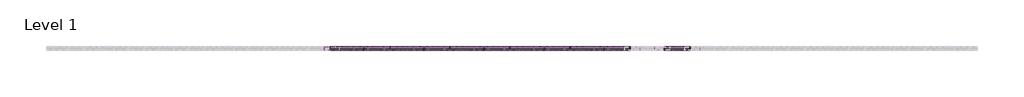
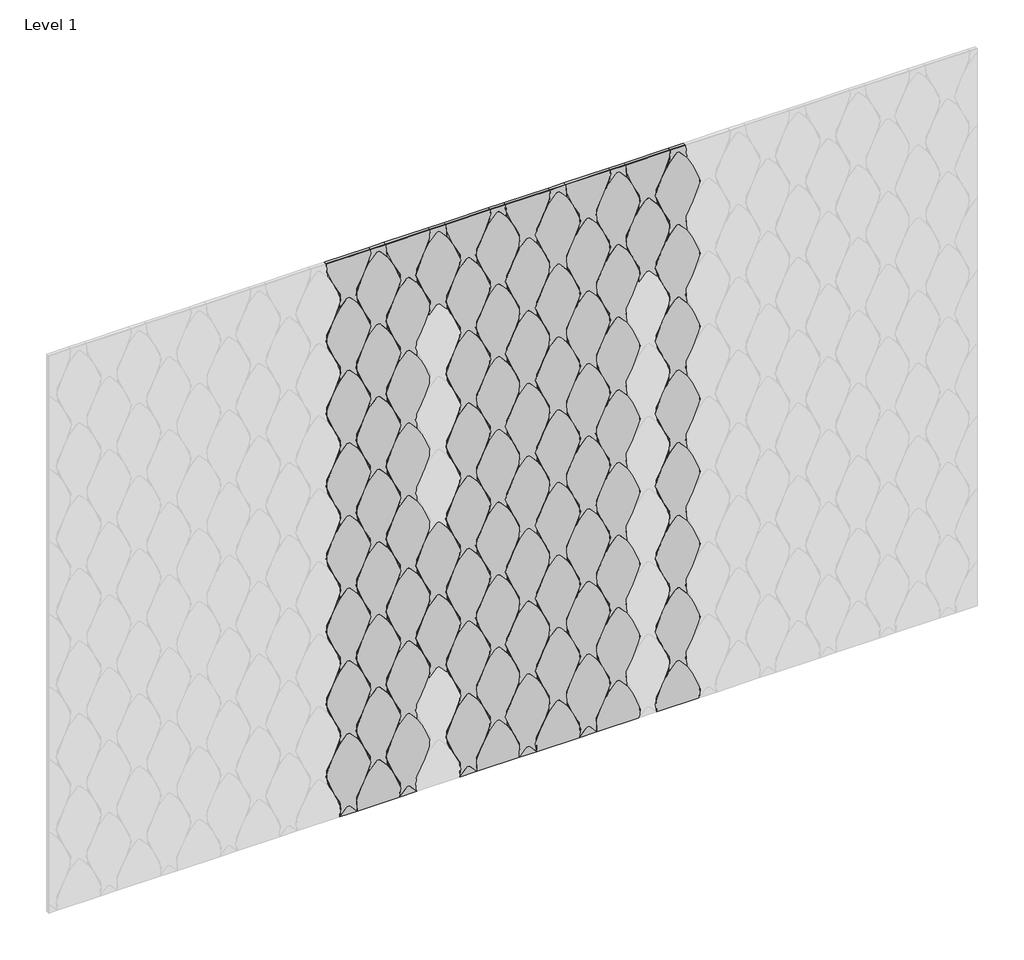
# One storey, part 2 of 3: 96 proxies.
"""IFC4 building model written with IfcOpenShell, lengths in millimetres."""

from ifc_helpers import new_model, si_unit, origin, place, context, project, spatial, transform, mapped, element, save
from components import specialty_equipment_90dfa3fd, specialty_equipment_1d57ec5c, specialty_equipment_d9d0cc40, specialty_equipment_58f33b70, specialty_equipment_77f5260d, specialty_equipment_34b07f8f, specialty_equipment_1d68d449, specialty_equipment_8d9a8f15, specialty_equipment_3b3f1b17, specialty_equipment_d7a9fa1d, specialty_equipment_a03a52e0, specialty_equipment_da839ed6

model = new_model("IFC4")

# Units and contexts
model_context = context("Model", 3, world=origin())
ifc_project = project(units=[si_unit("LENGTHUNIT", "METRE", prefix="MILLI")], contexts=[model_context])

# Site, building, storey
site = spatial("IfcSite", under=ifc_project)
building = spatial("IfcBuilding", under=site)
storey = spatial("IfcBuildingStorey", under=building, Name="Level 1", Elevation=0.0)

# Proxies
placement = place(None, origin())
specialty_equipment_shape = specialty_equipment_90dfa3fd(model_context)
element("IfcBuildingElementProxy", 1, Name="FilzFelt_Fish_Block : Fish Block", ObjectType="FilzFelt_Fish_Block : Fish Block", at=placement, inside=storey, context=model_context, shape_type="MappedRepresentation", body=[
    mapped(specialty_equipment_shape, transform((21099.6801216, 4010.4660665, 1941.1055095), x_axis=(1.0, 0.0, 0.0), y_axis=(0.0, 0.0, 1.0), z_axis=(0.0, -1.0, 0.0))),
])
element("IfcBuildingElementProxy", 2, Name="FilzFelt_Fish_Block : Fish Block", ObjectType="FilzFelt_Fish_Block : Fish Block", at=placement, inside=storey, context=model_context, shape_type="MappedRepresentation", body=[
    mapped(specialty_equipment_shape, transform((21099.6801216, 4010.4660665, 1666.6574563), x_axis=(1.0, 0.0, 0.0), y_axis=(0.0, 0.0, 1.0), z_axis=(0.0, -1.0, 0.0))),
])
element("IfcBuildingElementProxy", 3, Name="FilzFelt_Fish_Block : Fish Block", ObjectType="FilzFelt_Fish_Block : Fish Block", at=placement, inside=storey, context=model_context, shape_type="MappedRepresentation", body=[
    mapped(specialty_equipment_shape, transform((21099.6801216, 4010.4660665, 2215.5535626), x_axis=(1.0, 0.0, 0.0), y_axis=(0.0, 0.0, 1.0), z_axis=(0.0, -1.0, 0.0))),
])
element("IfcBuildingElementProxy", 4, Name="FilzFelt_Fish_Block : Fish Block", ObjectType="FilzFelt_Fish_Block : Fish Block", at=placement, inside=storey, context=model_context, shape_type="MappedRepresentation", body=[
    mapped(specialty_equipment_shape, transform((21099.6801216, 4010.4660665, 843.3132968), x_axis=(1.0, 0.0, 0.0), y_axis=(0.0, 0.0, 1.0), z_axis=(0.0, -1.0, 0.0))),
])
element("IfcBuildingElementProxy", 5, Name="FilzFelt_Fish_Block : Fish Block", ObjectType="FilzFelt_Fish_Block : Fish Block", at=placement, inside=storey, context=model_context, shape_type="MappedRepresentation", body=[
    mapped(specialty_equipment_shape, transform((21099.6801216, 4010.4660665, 1392.2094032), x_axis=(1.0, 0.0, 0.0), y_axis=(0.0, 0.0, 1.0), z_axis=(0.0, -1.0, 0.0))),
])
element("IfcBuildingElementProxy", 6, Name="FilzFelt_Fish_Block : Fish Block", ObjectType="FilzFelt_Fish_Block : Fish Block", at=placement, inside=storey, context=model_context, shape_type="MappedRepresentation", body=[
    mapped(specialty_equipment_shape, transform((21099.6801216, 4010.4660665, 1117.76135), x_axis=(1.0, 0.0, 0.0), y_axis=(0.0, 0.0, 1.0), z_axis=(0.0, -1.0, 0.0))),
])
element("IfcBuildingElementProxy", 7, Name="FilzFelt_Fish_Block : Fish Block", ObjectType="FilzFelt_Fish_Block : Fish Block", at=placement, inside=storey, context=model_context, shape_type="MappedRepresentation", body=[
    mapped(specialty_equipment_shape, transform((20885.4855388, 4010.4660665, 1117.76135), x_axis=(1.0, 0.0, 0.0), y_axis=(0.0, 0.0, 1.0), z_axis=(0.0, -1.0, 0.0))),
])
element("IfcBuildingElementProxy", 8, Name="FilzFelt_Fish_Block : Fish Block", ObjectType="FilzFelt_Fish_Block : Fish Block", at=placement, inside=storey, context=model_context, shape_type="MappedRepresentation", body=[
    mapped(specialty_equipment_shape, transform((20992.5828302, 4010.4660665, 2352.7775892), x_axis=(1.0, 0.0, 0.0), y_axis=(0.0, 0.0, 1.0), z_axis=(0.0, -1.0, 0.0))),
])
element("IfcBuildingElementProxy", 9, Name="FilzFelt_Fish_Block : Fish Block", ObjectType="FilzFelt_Fish_Block : Fish Block", at=placement, inside=storey, context=model_context, shape_type="MappedRepresentation", body=[
    mapped(specialty_equipment_shape, transform((20992.5828302, 4010.4660665, 1803.8814829), x_axis=(1.0, 0.0, 0.0), y_axis=(0.0, 0.0, 1.0), z_axis=(0.0, -1.0, 0.0))),
])
element("IfcBuildingElementProxy", 10, Name="FilzFelt_Fish_Block : Fish Block", ObjectType="FilzFelt_Fish_Block : Fish Block", at=placement, inside=storey, context=model_context, shape_type="MappedRepresentation", body=[
    mapped(specialty_equipment_shape, transform((20992.5828302, 4010.4660665, 1529.4334297), x_axis=(1.0, 0.0, 0.0), y_axis=(0.0, 0.0, 1.0), z_axis=(0.0, -1.0, 0.0))),
])
element("IfcBuildingElementProxy", 11, Name="FilzFelt_Fish_Block : Fish Block", ObjectType="FilzFelt_Fish_Block : Fish Block", at=placement, inside=storey, context=model_context, shape_type="MappedRepresentation", body=[
    mapped(specialty_equipment_shape, transform((20992.5828302, 4010.4660665, 1254.9853766), x_axis=(1.0, 0.0, 0.0), y_axis=(0.0, 0.0, 1.0), z_axis=(0.0, -1.0, 0.0))),
])
element("IfcBuildingElementProxy", 12, Name="FilzFelt_Fish_Block : Fish Block", ObjectType="FilzFelt_Fish_Block : Fish Block", at=placement, inside=storey, context=model_context, shape_type="MappedRepresentation", body=[
    mapped(specialty_equipment_shape, transform((20992.5828302, 4010.4660665, 706.0892703), x_axis=(1.0, 0.0, 0.0), y_axis=(0.0, 0.0, 1.0), z_axis=(0.0, -1.0, 0.0))),
])
element("IfcBuildingElementProxy", 13, Name="FilzFelt_Fish_Block : Fish Block", ObjectType="FilzFelt_Fish_Block : Fish Block", at=placement, inside=storey, context=model_context, shape_type="MappedRepresentation", body=[
    mapped(specialty_equipment_shape, transform((20564.1936645, 4010.4660665, 2078.329536), x_axis=(1.0, 0.0, 0.0), y_axis=(0.0, 0.0, 1.0), z_axis=(0.0, -1.0, 0.0))),
])
element("IfcBuildingElementProxy", 14, Name="FilzFelt_Fish_Block : Fish Block", ObjectType="FilzFelt_Fish_Block : Fish Block", at=placement, inside=storey, context=model_context, shape_type="MappedRepresentation", body=[
    mapped(specialty_equipment_shape, transform((20564.1936645, 4010.4660665, 1803.8814829), x_axis=(1.0, 0.0, 0.0), y_axis=(0.0, 0.0, 1.0), z_axis=(0.0, -1.0, 0.0))),
])
element("IfcBuildingElementProxy", 15, Name="FilzFelt_Fish_Block : Fish Block", ObjectType="FilzFelt_Fish_Block : Fish Block", at=placement, inside=storey, context=model_context, shape_type="MappedRepresentation", body=[
    mapped(specialty_equipment_shape, transform((20564.1936645, 4010.4660665, 1529.4334297), x_axis=(1.0, 0.0, 0.0), y_axis=(0.0, 0.0, 1.0), z_axis=(0.0, -1.0, 0.0))),
])
element("IfcBuildingElementProxy", 16, Name="FilzFelt_Fish_Block : Fish Block", ObjectType="FilzFelt_Fish_Block : Fish Block", at=placement, inside=storey, context=model_context, shape_type="MappedRepresentation", body=[
    mapped(specialty_equipment_shape, transform((20564.1936645, 4010.4660665, 980.5373234), x_axis=(1.0, 0.0, 0.0), y_axis=(0.0, 0.0, 1.0), z_axis=(0.0, -1.0, 0.0))),
])
element("IfcBuildingElementProxy", 17, Name="FilzFelt_Fish_Block : Fish Block", ObjectType="FilzFelt_Fish_Block : Fish Block", at=placement, inside=storey, context=model_context, shape_type="MappedRepresentation", body=[
    mapped(specialty_equipment_shape, transform((20564.1936645, 4010.4660665, 706.0892703), x_axis=(1.0, 0.0, 0.0), y_axis=(0.0, 0.0, 1.0), z_axis=(0.0, -1.0, 0.0))),
])
element("IfcBuildingElementProxy", 18, Name="FilzFelt_Fish_Block : Fish Block", ObjectType="FilzFelt_Fish_Block : Fish Block", at=placement, inside=storey, context=model_context, shape_type="MappedRepresentation", body=[
    mapped(specialty_equipment_shape, transform((21420.9719959, 4010.4660665, 2352.7775892), x_axis=(1.0, 0.0, 0.0), y_axis=(0.0, 0.0, 1.0), z_axis=(0.0, -1.0, 0.0))),
])
element("IfcBuildingElementProxy", 19, Name="FilzFelt_Fish_Block : Fish Block", ObjectType="FilzFelt_Fish_Block : Fish Block", at=placement, inside=storey, context=model_context, shape_type="MappedRepresentation", body=[
    mapped(specialty_equipment_shape, transform((21420.9719959, 4010.4660665, 2078.329536), x_axis=(1.0, 0.0, 0.0), y_axis=(0.0, 0.0, 1.0), z_axis=(0.0, -1.0, 0.0))),
])
element("IfcBuildingElementProxy", 20, Name="FilzFelt_Fish_Block : Fish Block", ObjectType="FilzFelt_Fish_Block : Fish Block", at=placement, inside=storey, context=model_context, shape_type="MappedRepresentation", body=[
    mapped(specialty_equipment_shape, transform((21420.9719959, 4010.4660665, 1803.8814829), x_axis=(1.0, 0.0, 0.0), y_axis=(0.0, 0.0, 1.0), z_axis=(0.0, -1.0, 0.0))),
])
element("IfcBuildingElementProxy", 21, Name="FilzFelt_Fish_Block : Fish Block", ObjectType="FilzFelt_Fish_Block : Fish Block", at=placement, inside=storey, context=model_context, shape_type="MappedRepresentation", body=[
    mapped(specialty_equipment_shape, transform((21420.9719959, 4010.4660665, 1254.9853766), x_axis=(1.0, 0.0, 0.0), y_axis=(0.0, 0.0, 1.0), z_axis=(0.0, -1.0, 0.0))),
])
element("IfcBuildingElementProxy", 22, Name="FilzFelt_Fish_Block : Fish Block", ObjectType="FilzFelt_Fish_Block : Fish Block", at=placement, inside=storey, context=model_context, shape_type="MappedRepresentation", body=[
    mapped(specialty_equipment_shape, transform((21420.9719959, 4010.4660665, 980.5373234), x_axis=(1.0, 0.0, 0.0), y_axis=(0.0, 0.0, 1.0), z_axis=(0.0, -1.0, 0.0))),
])
element("IfcBuildingElementProxy", 23, Name="FilzFelt_Fish_Block : Fish Block", ObjectType="FilzFelt_Fish_Block : Fish Block", at=placement, inside=storey, context=model_context, shape_type="MappedRepresentation", body=[
    mapped(specialty_equipment_shape, transform((21420.9719959, 4010.4660665, 706.0892703), x_axis=(1.0, 0.0, 0.0), y_axis=(0.0, 0.0, 1.0), z_axis=(0.0, -1.0, 0.0))),
])
specialty_equipment_2_shape = specialty_equipment_1d57ec5c(model_context)
element("IfcBuildingElementProxy", 24, Name="FilzFelt_Fish_Block : Fish Block", ObjectType="FilzFelt_Fish_Block : Fish Block", at=placement, inside=storey, context=model_context, shape_type="MappedRepresentation", body=[
    mapped(specialty_equipment_2_shape, transform((21099.6801216, 4010.4660665, 568.8652437), x_axis=(1.0, 0.0, 0.0), y_axis=(0.0, 0.0, 1.0), z_axis=(0.0, -1.0, 0.0))),
])
specialty_equipment_3_shape = specialty_equipment_d9d0cc40(model_context)
element("IfcBuildingElementProxy", 25, Name="FilzFelt_Fish_Block : Fish Block", ObjectType="FilzFelt_Fish_Block : Fish Block", at=placement, inside=storey, context=model_context, shape_type="MappedRepresentation", body=[
    mapped(specialty_equipment_3_shape, transform((21099.6801216, 4010.4660665, 2764.4496689), x_axis=(1.0, 0.0, 0.0), y_axis=(0.0, 0.0, 1.0), z_axis=(0.0, -1.0, 0.0))),
])
element("IfcBuildingElementProxy", 26, Name="FilzFelt_Fish_Block : Fish Block", ObjectType="FilzFelt_Fish_Block : Fish Block", at=placement, inside=storey, context=model_context, shape_type="MappedRepresentation", body=[
    mapped(specialty_equipment_3_shape, transform((20885.4855388, 4010.4660665, 2764.4496689), x_axis=(1.0, 0.0, 0.0), y_axis=(0.0, 0.0, 1.0), z_axis=(0.0, -1.0, 0.0))),
])
specialty_equipment_4_shape = specialty_equipment_58f33b70(model_context)
element("IfcBuildingElementProxy", 27, Name="FilzFelt_Fish_Block : Fish Block", ObjectType="FilzFelt_Fish_Block : Fish Block", at=placement, inside=storey, context=model_context, shape_type="MappedRepresentation", body=[
    mapped(specialty_equipment_4_shape, transform((21099.6801216, 4010.4660665, 2490.0016158), x_axis=(1.0, 0.0, 0.0), y_axis=(0.0, 0.0, 1.0), z_axis=(0.0, -1.0, 0.0))),
])
specialty_equipment_5_shape = specialty_equipment_77f5260d(model_context)
element("IfcBuildingElementProxy", 28, Name="FilzFelt_Fish_Block : Fish Block", ObjectType="FilzFelt_Fish_Block : Fish Block", at=placement, inside=storey, context=model_context, shape_type="MappedRepresentation", body=[
    mapped(specialty_equipment_5_shape, transform((21420.9719959, 4010.4660665, 2627.2256423), x_axis=(1.0, 0.0, 0.0), y_axis=(0.0, 0.0, 1.0), z_axis=(0.0, -1.0, 0.0))),
])
element("IfcBuildingElementProxy", 29, Name="FilzFelt_Fish_Block : Fish Block", ObjectType="FilzFelt_Fish_Block : Fish Block", at=placement, inside=storey, context=model_context, shape_type="MappedRepresentation", body=[
    mapped(specialty_equipment_shape, transform((20885.4855388, 4010.4660665, 1392.2094032), x_axis=(1.0, 0.0, 0.0), y_axis=(0.0, 0.0, 1.0), z_axis=(0.0, -1.0, 0.0))),
])
element("IfcBuildingElementProxy", 30, Name="FilzFelt_Fish_Block : Fish Block", ObjectType="FilzFelt_Fish_Block : Fish Block", at=placement, inside=storey, context=model_context, shape_type="MappedRepresentation", body=[
    mapped(specialty_equipment_shape, transform((20992.5828302, 4010.4660665, 2078.329536), x_axis=(1.0, 0.0, 0.0), y_axis=(0.0, 0.0, 1.0), z_axis=(0.0, -1.0, 0.0))),
])
element("IfcBuildingElementProxy", 31, Name="FilzFelt_Fish_Block : Fish Block", ObjectType="FilzFelt_Fish_Block : Fish Block", at=placement, inside=storey, context=model_context, shape_type="MappedRepresentation", body=[
    mapped(specialty_equipment_shape, transform((20992.5828302, 4010.4660665, 980.5373234), x_axis=(1.0, 0.0, 0.0), y_axis=(0.0, 0.0, 1.0), z_axis=(0.0, -1.0, 0.0))),
])
element("IfcBuildingElementProxy", 32, Name="FilzFelt_Fish_Block : Fish Block", ObjectType="FilzFelt_Fish_Block : Fish Block", at=placement, inside=storey, context=model_context, shape_type="MappedRepresentation", body=[
    mapped(specialty_equipment_shape, transform((20564.1936645, 4010.4660665, 2352.7775892), x_axis=(1.0, 0.0, 0.0), y_axis=(0.0, 0.0, 1.0), z_axis=(0.0, -1.0, 0.0))),
])
element("IfcBuildingElementProxy", 33, Name="FilzFelt_Fish_Block : Fish Block", ObjectType="FilzFelt_Fish_Block : Fish Block", at=placement, inside=storey, context=model_context, shape_type="MappedRepresentation", body=[
    mapped(specialty_equipment_shape, transform((20564.1936645, 4010.4660665, 1254.9853766), x_axis=(1.0, 0.0, 0.0), y_axis=(0.0, 0.0, 1.0), z_axis=(0.0, -1.0, 0.0))),
])
element("IfcBuildingElementProxy", 34, Name="FilzFelt_Fish_Block : Fish Block", ObjectType="FilzFelt_Fish_Block : Fish Block", at=placement, inside=storey, context=model_context, shape_type="MappedRepresentation", body=[
    mapped(specialty_equipment_shape, transform((21420.9719959, 4010.4660665, 1529.4334297), x_axis=(1.0, 0.0, 0.0), y_axis=(0.0, 0.0, 1.0), z_axis=(0.0, -1.0, 0.0))),
])
specialty_equipment_6_shape = specialty_equipment_34b07f8f(model_context)
element("IfcBuildingElementProxy", 35, Name="FilzFelt_Fish_Block : Fish Block", ObjectType="FilzFelt_Fish_Block : Fish Block", at=placement, inside=storey, context=model_context, shape_type="MappedRepresentation", body=[
    mapped(specialty_equipment_6_shape, transform((21420.9719959, 4010.4660665, 431.6364423), x_axis=(1.0, 0.0, 0.0), y_axis=(0.0, 0.0, 1.0), z_axis=(0.0, -1.0, 0.0))),
])
specialty_equipment_7_shape = specialty_equipment_1d68d449(model_context)
element("IfcBuildingElementProxy", 36, Name="FilzFelt_Fish_Block : Fish Block", ObjectType="FilzFelt_Fish_Block : Fish Block", at=placement, inside=storey, context=model_context, shape_type="MappedRepresentation", body=[
    mapped(specialty_equipment_7_shape, transform((21313.8747045, 4010.4660665, 1941.1055095), x_axis=(-1.0, 0.0, 0.0), y_axis=(0.0, 0.0, -1.0), z_axis=(0.0, -1.0, 0.0))),
])
element("IfcBuildingElementProxy", 37, Name="FilzFelt_Fish_Block : Fish Block", ObjectType="FilzFelt_Fish_Block : Fish Block", at=placement, inside=storey, context=model_context, shape_type="MappedRepresentation", body=[
    mapped(specialty_equipment_7_shape, transform((21313.8747045, 4010.4660665, 1666.6574563), x_axis=(-1.0, 0.0, 0.0), y_axis=(0.0, 0.0, -1.0), z_axis=(0.0, -1.0, 0.0))),
])
element("IfcBuildingElementProxy", 38, Name="FilzFelt_Fish_Block : Fish Block", ObjectType="FilzFelt_Fish_Block : Fish Block", at=placement, inside=storey, context=model_context, shape_type="MappedRepresentation", body=[
    mapped(specialty_equipment_7_shape, transform((21313.8747045, 4010.4660665, 2215.5535626), x_axis=(-1.0, 0.0, 0.0), y_axis=(0.0, 0.0, -1.0), z_axis=(0.0, -1.0, 0.0))),
])
element("IfcBuildingElementProxy", 39, Name="FilzFelt_Fish_Block : Fish Block", ObjectType="FilzFelt_Fish_Block : Fish Block", at=placement, inside=storey, context=model_context, shape_type="MappedRepresentation", body=[
    mapped(specialty_equipment_7_shape, transform((21313.8747045, 4010.4660665, 843.3132968), x_axis=(-1.0, 0.0, 0.0), y_axis=(0.0, 0.0, -1.0), z_axis=(0.0, -1.0, 0.0))),
])
element("IfcBuildingElementProxy", 40, Name="FilzFelt_Fish_Block : Fish Block", ObjectType="FilzFelt_Fish_Block : Fish Block", at=placement, inside=storey, context=model_context, shape_type="MappedRepresentation", body=[
    mapped(specialty_equipment_7_shape, transform((21313.8747045, 4010.4660665, 1392.2094032), x_axis=(-1.0, 0.0, 0.0), y_axis=(0.0, 0.0, -1.0), z_axis=(0.0, -1.0, 0.0))),
])
element("IfcBuildingElementProxy", 41, Name="FilzFelt_Fish_Block : Fish Block", ObjectType="FilzFelt_Fish_Block : Fish Block", at=placement, inside=storey, context=model_context, shape_type="MappedRepresentation", body=[
    mapped(specialty_equipment_7_shape, transform((21313.8747045, 4010.4660665, 1117.76135), x_axis=(-1.0, 0.0, 0.0), y_axis=(0.0, 0.0, -1.0), z_axis=(0.0, -1.0, 0.0))),
])
element("IfcBuildingElementProxy", 42, Name="FilzFelt_Fish_Block : Fish Block", ObjectType="FilzFelt_Fish_Block : Fish Block", at=placement, inside=storey, context=model_context, shape_type="MappedRepresentation", body=[
    mapped(specialty_equipment_7_shape, transform((21206.7774131, 4010.4660665, 2352.7775892), x_axis=(-1.0, 0.0, 0.0), y_axis=(0.0, 0.0, -1.0), z_axis=(0.0, -1.0, 0.0))),
])
element("IfcBuildingElementProxy", 43, Name="FilzFelt_Fish_Block : Fish Block", ObjectType="FilzFelt_Fish_Block : Fish Block", at=placement, inside=storey, context=model_context, shape_type="MappedRepresentation", body=[
    mapped(specialty_equipment_7_shape, transform((21206.7774131, 4010.4660665, 2078.329536), x_axis=(-1.0, 0.0, 0.0), y_axis=(0.0, 0.0, -1.0), z_axis=(0.0, -1.0, 0.0))),
])
element("IfcBuildingElementProxy", 44, Name="FilzFelt_Fish_Block : Fish Block", ObjectType="FilzFelt_Fish_Block : Fish Block", at=placement, inside=storey, context=model_context, shape_type="MappedRepresentation", body=[
    mapped(specialty_equipment_7_shape, transform((21206.7774131, 4010.4660665, 1529.4334297), x_axis=(-1.0, 0.0, 0.0), y_axis=(0.0, 0.0, -1.0), z_axis=(0.0, -1.0, 0.0))),
])
element("IfcBuildingElementProxy", 45, Name="FilzFelt_Fish_Block : Fish Block", ObjectType="FilzFelt_Fish_Block : Fish Block", at=placement, inside=storey, context=model_context, shape_type="MappedRepresentation", body=[
    mapped(specialty_equipment_7_shape, transform((21206.7774131, 4010.4660665, 1254.9853766), x_axis=(-1.0, 0.0, 0.0), y_axis=(0.0, 0.0, -1.0), z_axis=(0.0, -1.0, 0.0))),
])
element("IfcBuildingElementProxy", 46, Name="FilzFelt_Fish_Block : Fish Block", ObjectType="FilzFelt_Fish_Block : Fish Block", at=placement, inside=storey, context=model_context, shape_type="MappedRepresentation", body=[
    mapped(specialty_equipment_7_shape, transform((21206.7774131, 4010.4660665, 980.5373234), x_axis=(-1.0, 0.0, 0.0), y_axis=(0.0, 0.0, -1.0), z_axis=(0.0, -1.0, 0.0))),
])
element("IfcBuildingElementProxy", 47, Name="FilzFelt_Fish_Block : Fish Block", ObjectType="FilzFelt_Fish_Block : Fish Block", at=placement, inside=storey, context=model_context, shape_type="MappedRepresentation", body=[
    mapped(specialty_equipment_7_shape, transform((20671.290956, 4010.4660665, 1666.6574563), x_axis=(-1.0, 0.0, 0.0), y_axis=(0.0, 0.0, -1.0), z_axis=(0.0, -1.0, 0.0))),
])
element("IfcBuildingElementProxy", 48, Name="FilzFelt_Fish_Block : Fish Block", ObjectType="FilzFelt_Fish_Block : Fish Block", at=placement, inside=storey, context=model_context, shape_type="MappedRepresentation", body=[
    mapped(specialty_equipment_7_shape, transform((20671.290956, 4010.4660665, 2215.5535626), x_axis=(-1.0, 0.0, 0.0), y_axis=(0.0, 0.0, -1.0), z_axis=(0.0, -1.0, 0.0))),
])
element("IfcBuildingElementProxy", 49, Name="FilzFelt_Fish_Block : Fish Block", ObjectType="FilzFelt_Fish_Block : Fish Block", at=placement, inside=storey, context=model_context, shape_type="MappedRepresentation", body=[
    mapped(specialty_equipment_7_shape, transform((20671.290956, 4010.4660665, 1392.2094032), x_axis=(-1.0, 0.0, 0.0), y_axis=(0.0, 0.0, -1.0), z_axis=(0.0, -1.0, 0.0))),
])
element("IfcBuildingElementProxy", 50, Name="FilzFelt_Fish_Block : Fish Block", ObjectType="FilzFelt_Fish_Block : Fish Block", at=placement, inside=storey, context=model_context, shape_type="MappedRepresentation", body=[
    mapped(specialty_equipment_7_shape, transform((20671.290956, 4010.4660665, 1117.76135), x_axis=(-1.0, 0.0, 0.0), y_axis=(0.0, 0.0, -1.0), z_axis=(0.0, -1.0, 0.0))),
])
element("IfcBuildingElementProxy", 51, Name="FilzFelt_Fish_Block : Fish Block", ObjectType="FilzFelt_Fish_Block : Fish Block", at=placement, inside=storey, context=model_context, shape_type="MappedRepresentation", body=[
    mapped(specialty_equipment_7_shape, transform((20778.3882474, 4010.4660665, 2352.7775892), x_axis=(-1.0, 0.0, 0.0), y_axis=(0.0, 0.0, -1.0), z_axis=(0.0, -1.0, 0.0))),
])
element("IfcBuildingElementProxy", 52, Name="FilzFelt_Fish_Block : Fish Block", ObjectType="FilzFelt_Fish_Block : Fish Block", at=placement, inside=storey, context=model_context, shape_type="MappedRepresentation", body=[
    mapped(specialty_equipment_7_shape, transform((20778.3882474, 4010.4660665, 2078.329536), x_axis=(-1.0, 0.0, 0.0), y_axis=(0.0, 0.0, -1.0), z_axis=(0.0, -1.0, 0.0))),
])
element("IfcBuildingElementProxy", 53, Name="FilzFelt_Fish_Block : Fish Block", ObjectType="FilzFelt_Fish_Block : Fish Block", at=placement, inside=storey, context=model_context, shape_type="MappedRepresentation", body=[
    mapped(specialty_equipment_7_shape, transform((20778.3882474, 4010.4660665, 1803.8814829), x_axis=(-1.0, 0.0, 0.0), y_axis=(0.0, 0.0, -1.0), z_axis=(0.0, -1.0, 0.0))),
])
element("IfcBuildingElementProxy", 54, Name="FilzFelt_Fish_Block : Fish Block", ObjectType="FilzFelt_Fish_Block : Fish Block", at=placement, inside=storey, context=model_context, shape_type="MappedRepresentation", body=[
    mapped(specialty_equipment_7_shape, transform((20778.3882474, 4010.4660665, 1529.4334297), x_axis=(-1.0, 0.0, 0.0), y_axis=(0.0, 0.0, -1.0), z_axis=(0.0, -1.0, 0.0))),
])
element("IfcBuildingElementProxy", 55, Name="FilzFelt_Fish_Block : Fish Block", ObjectType="FilzFelt_Fish_Block : Fish Block", at=placement, inside=storey, context=model_context, shape_type="MappedRepresentation", body=[
    mapped(specialty_equipment_7_shape, transform((20778.3882474, 4010.4660665, 1254.9853766), x_axis=(-1.0, 0.0, 0.0), y_axis=(0.0, 0.0, -1.0), z_axis=(0.0, -1.0, 0.0))),
])
element("IfcBuildingElementProxy", 56, Name="FilzFelt_Fish_Block : Fish Block", ObjectType="FilzFelt_Fish_Block : Fish Block", at=placement, inside=storey, context=model_context, shape_type="MappedRepresentation", body=[
    mapped(specialty_equipment_7_shape, transform((20778.3882474, 4010.4660665, 980.5373234), x_axis=(-1.0, 0.0, 0.0), y_axis=(0.0, 0.0, -1.0), z_axis=(0.0, -1.0, 0.0))),
])
element("IfcBuildingElementProxy", 57, Name="FilzFelt_Fish_Block : Fish Block", ObjectType="FilzFelt_Fish_Block : Fish Block", at=placement, inside=storey, context=model_context, shape_type="MappedRepresentation", body=[
    mapped(specialty_equipment_7_shape, transform((20778.3882474, 4010.4660665, 706.0892703), x_axis=(-1.0, 0.0, 0.0), y_axis=(0.0, 0.0, -1.0), z_axis=(0.0, -1.0, 0.0))),
])
element("IfcBuildingElementProxy", 58, Name="FilzFelt_Fish_Block : Fish Block", ObjectType="FilzFelt_Fish_Block : Fish Block", at=placement, inside=storey, context=model_context, shape_type="MappedRepresentation", body=[
    mapped(specialty_equipment_7_shape, transform((21528.0692873, 4010.4660665, 1941.1055095), x_axis=(-1.0, 0.0, 0.0), y_axis=(0.0, 0.0, -1.0), z_axis=(0.0, -1.0, 0.0))),
])
element("IfcBuildingElementProxy", 59, Name="FilzFelt_Fish_Block : Fish Block", ObjectType="FilzFelt_Fish_Block : Fish Block", at=placement, inside=storey, context=model_context, shape_type="MappedRepresentation", body=[
    mapped(specialty_equipment_7_shape, transform((21528.0692873, 4010.4660665, 1666.6574563), x_axis=(-1.0, 0.0, 0.0), y_axis=(0.0, 0.0, -1.0), z_axis=(0.0, -1.0, 0.0))),
])
element("IfcBuildingElementProxy", 60, Name="FilzFelt_Fish_Block : Fish Block", ObjectType="FilzFelt_Fish_Block : Fish Block", at=placement, inside=storey, context=model_context, shape_type="MappedRepresentation", body=[
    mapped(specialty_equipment_7_shape, transform((21528.0692873, 4010.4660665, 2215.5535626), x_axis=(-1.0, 0.0, 0.0), y_axis=(0.0, 0.0, -1.0), z_axis=(0.0, -1.0, 0.0))),
])
element("IfcBuildingElementProxy", 61, Name="FilzFelt_Fish_Block : Fish Block", ObjectType="FilzFelt_Fish_Block : Fish Block", at=placement, inside=storey, context=model_context, shape_type="MappedRepresentation", body=[
    mapped(specialty_equipment_7_shape, transform((21528.0692873, 4010.4660665, 843.3132968), x_axis=(-1.0, 0.0, 0.0), y_axis=(0.0, 0.0, -1.0), z_axis=(0.0, -1.0, 0.0))),
])
element("IfcBuildingElementProxy", 62, Name="FilzFelt_Fish_Block : Fish Block", ObjectType="FilzFelt_Fish_Block : Fish Block", at=placement, inside=storey, context=model_context, shape_type="MappedRepresentation", body=[
    mapped(specialty_equipment_7_shape, transform((21528.0692873, 4010.4660665, 1392.2094032), x_axis=(-1.0, 0.0, 0.0), y_axis=(0.0, 0.0, -1.0), z_axis=(0.0, -1.0, 0.0))),
])
element("IfcBuildingElementProxy", 63, Name="FilzFelt_Fish_Block : Fish Block", ObjectType="FilzFelt_Fish_Block : Fish Block", at=placement, inside=storey, context=model_context, shape_type="MappedRepresentation", body=[
    mapped(specialty_equipment_7_shape, transform((21528.0692873, 4010.4660665, 1117.76135), x_axis=(-1.0, 0.0, 0.0), y_axis=(0.0, 0.0, -1.0), z_axis=(0.0, -1.0, 0.0))),
])
element("IfcBuildingElementProxy", 64, Name="FilzFelt_Fish_Block : Fish Block", ObjectType="FilzFelt_Fish_Block : Fish Block", at=placement, inside=storey, context=model_context, shape_type="MappedRepresentation", body=[
    mapped(specialty_equipment_7_shape, transform((21742.2638702, 4010.4660665, 1941.1055095), x_axis=(-1.0, 0.0, 0.0), y_axis=(0.0, 0.0, -1.0), z_axis=(0.0, -1.0, 0.0))),
])
element("IfcBuildingElementProxy", 65, Name="FilzFelt_Fish_Block : Fish Block", ObjectType="FilzFelt_Fish_Block : Fish Block", at=placement, inside=storey, context=model_context, shape_type="MappedRepresentation", body=[
    mapped(specialty_equipment_7_shape, transform((21742.2638702, 4010.4660665, 1666.6574563), x_axis=(-1.0, 0.0, 0.0), y_axis=(0.0, 0.0, -1.0), z_axis=(0.0, -1.0, 0.0))),
])
element("IfcBuildingElementProxy", 66, Name="FilzFelt_Fish_Block : Fish Block", ObjectType="FilzFelt_Fish_Block : Fish Block", at=placement, inside=storey, context=model_context, shape_type="MappedRepresentation", body=[
    mapped(specialty_equipment_7_shape, transform((21742.2638702, 4010.4660665, 2215.5535626), x_axis=(-1.0, 0.0, 0.0), y_axis=(0.0, 0.0, -1.0), z_axis=(0.0, -1.0, 0.0))),
])
element("IfcBuildingElementProxy", 67, Name="FilzFelt_Fish_Block : Fish Block", ObjectType="FilzFelt_Fish_Block : Fish Block", at=placement, inside=storey, context=model_context, shape_type="MappedRepresentation", body=[
    mapped(specialty_equipment_7_shape, transform((21742.2638702, 4010.4660665, 843.3132968), x_axis=(-1.0, 0.0, 0.0), y_axis=(0.0, 0.0, -1.0), z_axis=(0.0, -1.0, 0.0))),
])
element("IfcBuildingElementProxy", 68, Name="FilzFelt_Fish_Block : Fish Block", ObjectType="FilzFelt_Fish_Block : Fish Block", at=placement, inside=storey, context=model_context, shape_type="MappedRepresentation", body=[
    mapped(specialty_equipment_7_shape, transform((21742.2638702, 4010.4660665, 1392.2094032), x_axis=(-1.0, 0.0, 0.0), y_axis=(0.0, 0.0, -1.0), z_axis=(0.0, -1.0, 0.0))),
])
element("IfcBuildingElementProxy", 69, Name="FilzFelt_Fish_Block : Fish Block", ObjectType="FilzFelt_Fish_Block : Fish Block", at=placement, inside=storey, context=model_context, shape_type="MappedRepresentation", body=[
    mapped(specialty_equipment_7_shape, transform((21635.1665787, 4010.4660665, 2352.7775892), x_axis=(-1.0, 0.0, 0.0), y_axis=(0.0, 0.0, -1.0), z_axis=(0.0, -1.0, 0.0))),
])
specialty_equipment_8_shape = specialty_equipment_8d9a8f15(model_context)
element("IfcBuildingElementProxy", 70, Name="FilzFelt_Fish_Block : Fish Block", ObjectType="FilzFelt_Fish_Block : Fish Block", at=placement, inside=storey, context=model_context, shape_type="MappedRepresentation", body=[
    mapped(specialty_equipment_8_shape, transform((21313.8747045, 4010.4660665, 568.8652437), x_axis=(-1.0, 0.0, 0.0), y_axis=(0.0, 0.0, -1.0), z_axis=(0.0, -1.0, 0.0))),
])
element("IfcBuildingElementProxy", 71, Name="FilzFelt_Fish_Block : Fish Block", ObjectType="FilzFelt_Fish_Block : Fish Block", at=placement, inside=storey, context=model_context, shape_type="MappedRepresentation", body=[
    mapped(specialty_equipment_8_shape, transform((20671.290956, 4010.4660665, 568.8652437), x_axis=(-1.0, 0.0, 0.0), y_axis=(0.0, 0.0, -1.0), z_axis=(0.0, -1.0, 0.0))),
])
element("IfcBuildingElementProxy", 72, Name="FilzFelt_Fish_Block : Fish Block", ObjectType="FilzFelt_Fish_Block : Fish Block", at=placement, inside=storey, context=model_context, shape_type="MappedRepresentation", body=[
    mapped(specialty_equipment_8_shape, transform((21528.0692873, 4010.4660665, 568.8652437), x_axis=(-1.0, 0.0, 0.0), y_axis=(0.0, 0.0, -1.0), z_axis=(0.0, -1.0, 0.0))),
])
element("IfcBuildingElementProxy", 73, Name="FilzFelt_Fish_Block : Fish Block", ObjectType="FilzFelt_Fish_Block : Fish Block", at=placement, inside=storey, context=model_context, shape_type="MappedRepresentation", body=[
    mapped(specialty_equipment_8_shape, transform((21742.2638702, 4010.4660665, 568.8652437), x_axis=(-1.0, 0.0, 0.0), y_axis=(0.0, 0.0, -1.0), z_axis=(0.0, -1.0, 0.0))),
])
specialty_equipment_9_shape = specialty_equipment_3b3f1b17(model_context)
element("IfcBuildingElementProxy", 74, Name="FilzFelt_Fish_Block : Fish Block", ObjectType="FilzFelt_Fish_Block : Fish Block", at=placement, inside=storey, context=model_context, shape_type="MappedRepresentation", body=[
    mapped(specialty_equipment_9_shape, transform((21313.8747045, 4010.4660665, 2764.4496689), x_axis=(-1.0, 0.0, 0.0), y_axis=(0.0, 0.0, -1.0), z_axis=(0.0, -1.0, 0.0))),
])
element("IfcBuildingElementProxy", 75, Name="FilzFelt_Fish_Block : Fish Block", ObjectType="FilzFelt_Fish_Block : Fish Block", at=placement, inside=storey, context=model_context, shape_type="MappedRepresentation", body=[
    mapped(specialty_equipment_9_shape, transform((20671.290956, 4010.4660665, 2764.4496689), x_axis=(-1.0, 0.0, 0.0), y_axis=(0.0, 0.0, -1.0), z_axis=(0.0, -1.0, 0.0))),
])
element("IfcBuildingElementProxy", 76, Name="FilzFelt_Fish_Block : Fish Block", ObjectType="FilzFelt_Fish_Block : Fish Block", at=placement, inside=storey, context=model_context, shape_type="MappedRepresentation", body=[
    mapped(specialty_equipment_9_shape, transform((21528.0692873, 4010.4660665, 2764.4496689), x_axis=(-1.0, 0.0, 0.0), y_axis=(0.0, 0.0, -1.0), z_axis=(0.0, -1.0, 0.0))),
])
element("IfcBuildingElementProxy", 77, Name="FilzFelt_Fish_Block : Fish Block", ObjectType="FilzFelt_Fish_Block : Fish Block", at=placement, inside=storey, context=model_context, shape_type="MappedRepresentation", body=[
    mapped(specialty_equipment_9_shape, transform((21742.2638702, 4010.4660665, 2764.4496689), x_axis=(-1.0, 0.0, 0.0), y_axis=(0.0, 0.0, -1.0), z_axis=(0.0, -1.0, 0.0))),
])
specialty_equipment_10_shape = specialty_equipment_d7a9fa1d(model_context)
element("IfcBuildingElementProxy", 78, Name="FilzFelt_Fish_Block : Fish Block", ObjectType="FilzFelt_Fish_Block : Fish Block", at=placement, inside=storey, context=model_context, shape_type="MappedRepresentation", body=[
    mapped(specialty_equipment_10_shape, transform((21313.8747045, 4010.4660665, 2490.0016158), x_axis=(-1.0, 0.0, 0.0), y_axis=(0.0, 0.0, -1.0), z_axis=(0.0, -1.0, 0.0))),
])
element("IfcBuildingElementProxy", 79, Name="FilzFelt_Fish_Block : Fish Block", ObjectType="FilzFelt_Fish_Block : Fish Block", at=placement, inside=storey, context=model_context, shape_type="MappedRepresentation", body=[
    mapped(specialty_equipment_10_shape, transform((20671.290956, 4010.4660665, 2490.0016158), x_axis=(-1.0, 0.0, 0.0), y_axis=(0.0, 0.0, -1.0), z_axis=(0.0, -1.0, 0.0))),
])
element("IfcBuildingElementProxy", 80, Name="FilzFelt_Fish_Block : Fish Block", ObjectType="FilzFelt_Fish_Block : Fish Block", at=placement, inside=storey, context=model_context, shape_type="MappedRepresentation", body=[
    mapped(specialty_equipment_10_shape, transform((21528.0692873, 4010.4660665, 2490.0016158), x_axis=(-1.0, 0.0, 0.0), y_axis=(0.0, 0.0, -1.0), z_axis=(0.0, -1.0, 0.0))),
])
element("IfcBuildingElementProxy", 81, Name="FilzFelt_Fish_Block : Fish Block", ObjectType="FilzFelt_Fish_Block : Fish Block", at=placement, inside=storey, context=model_context, shape_type="MappedRepresentation", body=[
    mapped(specialty_equipment_10_shape, transform((21742.2638702, 4010.4660665, 2490.0016158), x_axis=(-1.0, 0.0, 0.0), y_axis=(0.0, 0.0, -1.0), z_axis=(0.0, -1.0, 0.0))),
])
element("IfcBuildingElementProxy", 82, Name="FilzFelt_Fish_Block : Fish Block", ObjectType="FilzFelt_Fish_Block : Fish Block", at=placement, inside=storey, context=model_context, shape_type="MappedRepresentation", body=[
    mapped(specialty_equipment_7_shape, transform((21206.7774131, 4010.4660665, 1803.8814829), x_axis=(-1.0, 0.0, 0.0), y_axis=(0.0, 0.0, -1.0), z_axis=(0.0, -1.0, 0.0))),
])
element("IfcBuildingElementProxy", 83, Name="FilzFelt_Fish_Block : Fish Block", ObjectType="FilzFelt_Fish_Block : Fish Block", at=placement, inside=storey, context=model_context, shape_type="MappedRepresentation", body=[
    mapped(specialty_equipment_7_shape, transform((21206.7774131, 4010.4660665, 706.0892703), x_axis=(-1.0, 0.0, 0.0), y_axis=(0.0, 0.0, -1.0), z_axis=(0.0, -1.0, 0.0))),
])
element("IfcBuildingElementProxy", 84, Name="FilzFelt_Fish_Block : Fish Block", ObjectType="FilzFelt_Fish_Block : Fish Block", at=placement, inside=storey, context=model_context, shape_type="MappedRepresentation", body=[
    mapped(specialty_equipment_7_shape, transform((20671.290956, 4010.4660665, 1941.1055095), x_axis=(-1.0, 0.0, 0.0), y_axis=(0.0, 0.0, -1.0), z_axis=(0.0, -1.0, 0.0))),
])
element("IfcBuildingElementProxy", 85, Name="FilzFelt_Fish_Block : Fish Block", ObjectType="FilzFelt_Fish_Block : Fish Block", at=placement, inside=storey, context=model_context, shape_type="MappedRepresentation", body=[
    mapped(specialty_equipment_7_shape, transform((20671.290956, 4010.4660665, 843.3132968), x_axis=(-1.0, 0.0, 0.0), y_axis=(0.0, 0.0, -1.0), z_axis=(0.0, -1.0, 0.0))),
])
element("IfcBuildingElementProxy", 86, Name="FilzFelt_Fish_Block : Fish Block", ObjectType="FilzFelt_Fish_Block : Fish Block", at=placement, inside=storey, context=model_context, shape_type="MappedRepresentation", body=[
    mapped(specialty_equipment_7_shape, transform((21742.2638702, 4010.4660665, 1117.76135), x_axis=(-1.0, 0.0, 0.0), y_axis=(0.0, 0.0, -1.0), z_axis=(0.0, -1.0, 0.0))),
])
specialty_equipment_11_shape = specialty_equipment_a03a52e0(model_context)
element("IfcBuildingElementProxy", 87, Name="FilzFelt_Fish_Block : Fish Block", ObjectType="FilzFelt_Fish_Block : Fish Block", at=placement, inside=storey, context=model_context, shape_type="MappedRepresentation", body=[
    mapped(specialty_equipment_11_shape, transform((21206.7774131, 4010.4660665, 2627.2256423), x_axis=(-1.0, 0.0, 0.0), y_axis=(0.0, 0.0, -1.0), z_axis=(0.0, -1.0, 0.0))),
])
element("IfcBuildingElementProxy", 88, Name="FilzFelt_Fish_Block : Fish Block", ObjectType="FilzFelt_Fish_Block : Fish Block", at=placement, inside=storey, context=model_context, shape_type="MappedRepresentation", body=[
    mapped(specialty_equipment_11_shape, transform((20778.3882474, 4010.4660665, 2627.2256423), x_axis=(-1.0, 0.0, 0.0), y_axis=(0.0, 0.0, -1.0), z_axis=(0.0, -1.0, 0.0))),
])
element("IfcBuildingElementProxy", 89, Name="FilzFelt_Fish_Block : Fish Block", ObjectType="FilzFelt_Fish_Block : Fish Block", at=placement, inside=storey, context=model_context, shape_type="MappedRepresentation", body=[
    mapped(specialty_equipment_11_shape, transform((21635.1665787, 4010.4660665, 2627.2256423), x_axis=(-1.0, 0.0, 0.0), y_axis=(0.0, 0.0, -1.0), z_axis=(0.0, -1.0, 0.0))),
])
specialty_equipment_12_shape = specialty_equipment_da839ed6(model_context)
element("IfcBuildingElementProxy", 90, Name="FilzFelt_Fish_Block : Fish Block", ObjectType="FilzFelt_Fish_Block : Fish Block", at=placement, inside=storey, context=model_context, shape_type="MappedRepresentation", body=[
    mapped(specialty_equipment_12_shape, transform((21206.7774131, 4010.4660665, 431.6364423), x_axis=(-1.0, 0.0, 0.0), y_axis=(0.0, 0.0, -1.0), z_axis=(0.0, -1.0, 0.0))),
])
element("IfcBuildingElementProxy", 91, Name="FilzFelt_Fish_Block : Fish Block", ObjectType="FilzFelt_Fish_Block : Fish Block", at=placement, inside=storey, context=model_context, shape_type="MappedRepresentation", body=[
    mapped(specialty_equipment_12_shape, transform((20778.3882474, 4010.4660665, 431.6364423), x_axis=(-1.0, 0.0, 0.0), y_axis=(0.0, 0.0, -1.0), z_axis=(0.0, -1.0, 0.0))),
])
element("IfcBuildingElementProxy", 92, Name="FilzFelt_Fish_Block : Fish Block", ObjectType="FilzFelt_Fish_Block : Fish Block", at=placement, inside=storey, context=model_context, shape_type="MappedRepresentation", body=[
    mapped(specialty_equipment_5_shape, transform((20992.5828302, 4010.4660665, 2627.2256423), x_axis=(1.0, 0.0, 0.0), y_axis=(0.0, 0.0, 1.0), z_axis=(0.0, -1.0, 0.0))),
])
element("IfcBuildingElementProxy", 93, Name="FilzFelt_Fish_Block : Fish Block", ObjectType="FilzFelt_Fish_Block : Fish Block", at=placement, inside=storey, context=model_context, shape_type="MappedRepresentation", body=[
    mapped(specialty_equipment_5_shape, transform((20564.1936645, 4010.4660665, 2627.2256423), x_axis=(1.0, 0.0, 0.0), y_axis=(0.0, 0.0, 1.0), z_axis=(0.0, -1.0, 0.0))),
])
element("IfcBuildingElementProxy", 94, Name="FilzFelt_Fish_Block : Fish Block", ObjectType="FilzFelt_Fish_Block : Fish Block", at=placement, inside=storey, context=model_context, shape_type="MappedRepresentation", body=[
    mapped(specialty_equipment_6_shape, transform((20992.5828302, 4010.4660665, 431.6364423), x_axis=(1.0, 0.0, 0.0), y_axis=(0.0, 0.0, 1.0), z_axis=(0.0, -1.0, 0.0))),
])
element("IfcBuildingElementProxy", 95, Name="FilzFelt_Fish_Block : Fish Block", ObjectType="FilzFelt_Fish_Block : Fish Block", at=placement, inside=storey, context=model_context, shape_type="MappedRepresentation", body=[
    mapped(specialty_equipment_6_shape, transform((20564.1936645, 4010.4660665, 431.6364423), x_axis=(1.0, 0.0, 0.0), y_axis=(0.0, 0.0, 1.0), z_axis=(0.0, -1.0, 0.0))),
])
element("IfcBuildingElementProxy", 96, Name="FilzFelt_Fish_Block : Fish Block", ObjectType="FilzFelt_Fish_Block : Fish Block", at=placement, inside=storey, context=model_context, shape_type="MappedRepresentation", body=[
    mapped(specialty_equipment_4_shape, transform((20885.4855388, 4010.4660665, 2490.0016158), x_axis=(1.0, 0.0, 0.0), y_axis=(0.0, 0.0, 1.0), z_axis=(0.0, -1.0, 0.0))),
])

save(model, "model.ifc")
